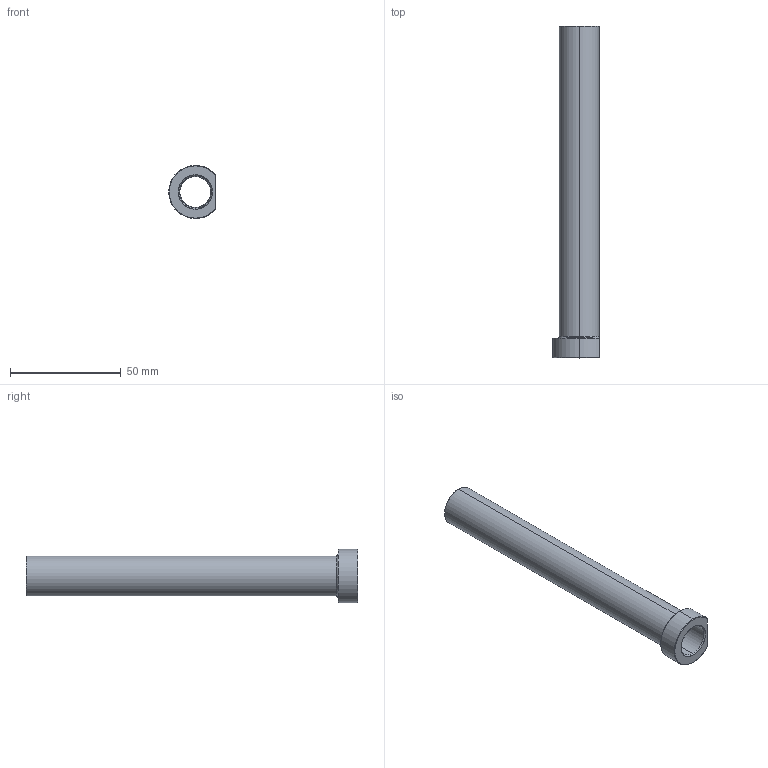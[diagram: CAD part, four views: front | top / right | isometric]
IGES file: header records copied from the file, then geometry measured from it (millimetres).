
Start section: SolidWorks IGES file using analytic representation for surfaces
Global section: file name: C:\Users\365admin\AppData\Local\Temp\InFlowConvert3DWorking\ESD14L150-K.igs; native system: SolidWorks 2019; preprocessor: SolidWorks 2019; author: 365admin; date: 220205.115357; units: millimetre
Bounding box: 21 x 150 x 24 mm (x, y, z)
Surface area: 15851.9 mm2 (no closed solid volume)
Topology: 0 solids, 0 shells, 26 faces, 313 edges, 313 vertices
Faces by surface type: revolution 19, bspline 7
